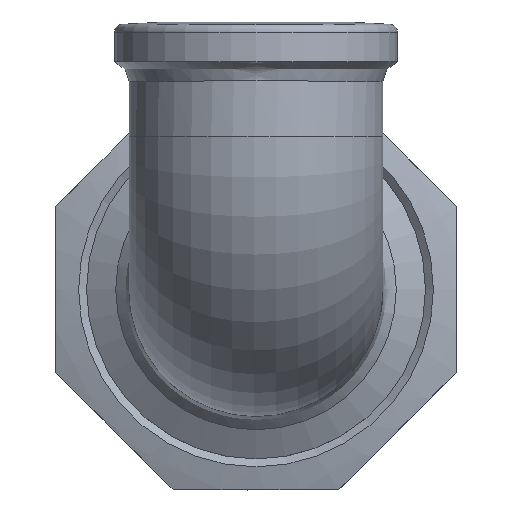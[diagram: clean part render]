
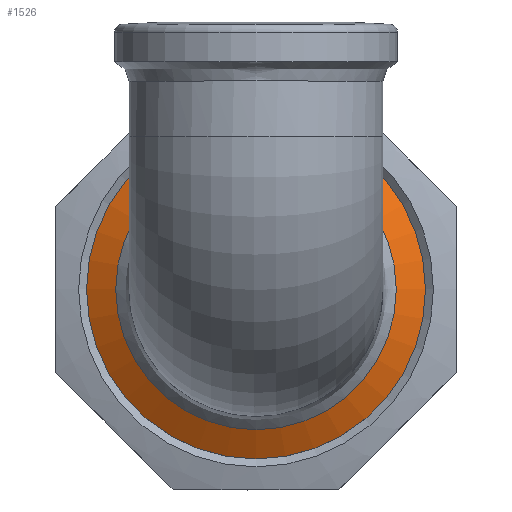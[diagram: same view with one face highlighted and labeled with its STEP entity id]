
A CAD part, top view. The second image highlights one B-rep face of the part: STEP entity #1526.
In plain terms, the highlighted conical face has half-angle 60 degrees and reference radius 18.328 mm.
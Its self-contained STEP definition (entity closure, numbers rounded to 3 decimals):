
#1495=CARTESIAN_POINT('',(0.,20.955,35.37));
#1496=VERTEX_POINT('',#1495);
#1497=CARTESIAN_POINT('',(0.,0.,35.37));
#1498=DIRECTION('',(0.0,0.0,-1.0));
#1499=DIRECTION('',(-1.0,0.0,0.0));
#1500=AXIS2_PLACEMENT_3D('',#1497,#1498,#1499);
#1501=CIRCLE('',#1500,20.955);
#1502=EDGE_CURVE('',#1496,#1496,#1501,.T.);
#1507=CARTESIAN_POINT('',(0.,0.,36.887));
#1508=DIRECTION('',(0.0,0.0,-1.0));
#1509=DIRECTION('',(0.0,-1.0,0.0));
#1510=AXIS2_PLACEMENT_3D('',#1507,#1508,#1509);
#1511=CONICAL_SURFACE('',#1510,18.328,60.);
#1512=ORIENTED_EDGE('',*,*,#1502,.F.);
#1513=EDGE_LOOP('',(#1512));
#1514=FACE_OUTER_BOUND('',#1513,.T.);
#1515=CARTESIAN_POINT('',(17.35,0.,37.451));
#1516=VERTEX_POINT('',#1515);
#1517=CARTESIAN_POINT('',(0.,0.,37.451));
#1518=DIRECTION('',(0.0,0.0,1.0));
#1519=DIRECTION('',(0.0,1.0,0.0));
#1520=AXIS2_PLACEMENT_3D('',#1517,#1518,#1519);
#1521=CIRCLE('',#1520,17.35);
#1522=EDGE_CURVE('',#1516,#1516,#1521,.T.);
#1523=ORIENTED_EDGE('',*,*,#1522,.F.);
#1524=EDGE_LOOP('',(#1523));
#1525=FACE_BOUND('',#1524,.T.);
#1526=ADVANCED_FACE('',(#1514,#1525),#1511,.T.);
